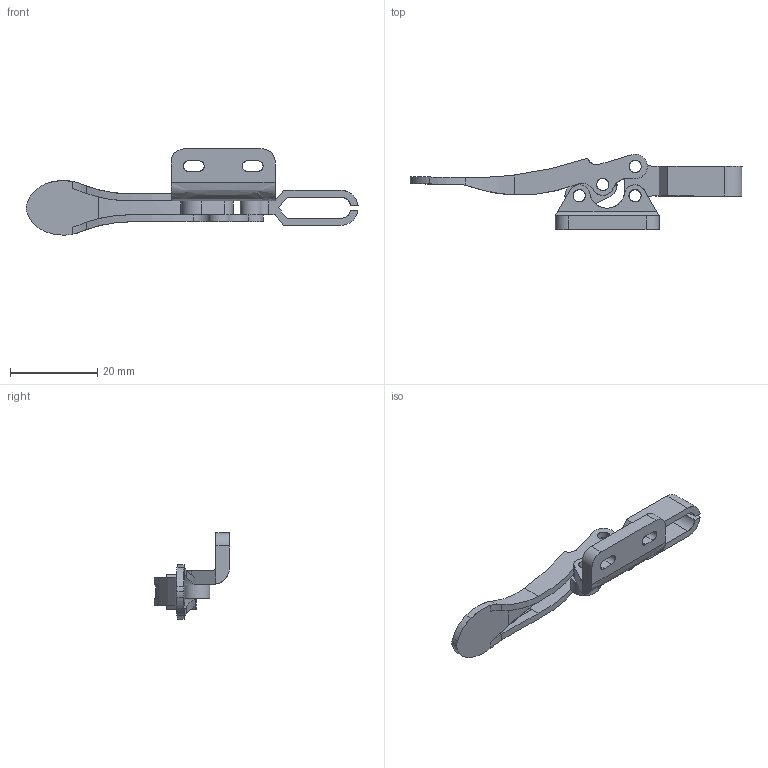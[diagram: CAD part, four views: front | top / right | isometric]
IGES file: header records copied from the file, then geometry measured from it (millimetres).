
Start section: Comment
Global section: file name: 201r.igs; native system:  By Spatial Corp.; preprocessor: XPlus PS/IGES 3.0; author: Author; organization: Title; date: 20050217.075207; units: inch
Bounding box: 76.01 x 17.3 x 19.75 mm (x, y, z)
Surface area: 3841 mm2 (no closed solid volume)
Topology: 0 solids, 0 shells, 120 faces, 658 edges, 656 vertices
Faces by surface type: revolution 78, extrusion 42
